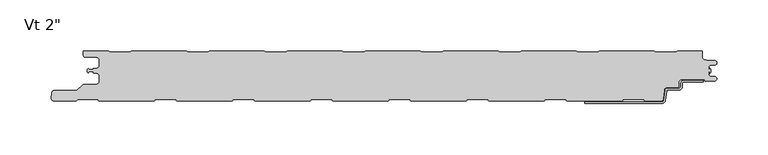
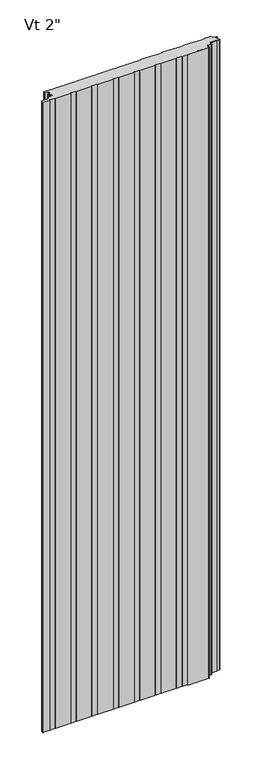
"""IFC4 building model written with IfcOpenShell, lengths in millimetres: plate geometry."""

from ifc_helpers import new_model, si_unit, point, frame, frame_2d, origin, origin_with_axes, place, context, project, spatial, polyline, circle_curve, trimmed, segment, composite_curve, outline, extrude, source, transform, mapped, element, save
from ifc_brep_helpers import plane_surface, cylinder_surface, revolved_surface, advanced_brep


def plate_50353770(model_context):
    return source(origin(), model_context, "Body", "SolidModel", [
        advanced_brep(
        [(278.4543181, -29.7008679, 0.0), (297.1995181, -29.7008679, 0.0), (297.1995181, -31.2248679, 0.0), (278.4543181, -31.2248679, 0.0), (276.9303181, -32.7488679, 0.0), (276.9303181, -35.8476679, 0.0), (273.4759181, -39.3020679, 0.0), (262.2633607, -39.3020679, 0.0), (261.5042604, -39.9976552, 0.0), (260.3094328, -49.5416507, 0.0), (257.2730313, -52.324, 0.0), (181.7057181, -52.3360323, 0.0), (181.7057181, -50.8, 0.0), (257.2730313, -50.8, 0.0), (258.7912321, -49.4088254, 0.0), (259.9860597, -39.8648299, 0.0), (262.2633607, -37.7780679, 0.0), (273.4759181, -37.7780679, 0.0), (275.4063181, -35.8476679, 0.0), (275.4063181, -32.7488679, 0.0), (262.2633607, -39.3020679, 2400.0), (261.5042604, -39.9976552, 2400.0), (276.9303181, -35.8476679, 2400.0), (273.4759181, -39.3020679, 2400.0), (297.1995181, -29.7008679, 2400.0), (297.1995181, -31.2248679, 2400.0), (278.4543181, -31.2248679, 2400.0), (276.9303181, -32.7488679, 2400.0), (260.3094328, -49.5416507, 2400.0), (257.2730313, -52.324, 2400.0), (257.2730313, -50.8, 2400.0), (258.7912321, -49.4088254, 2400.0), (278.4543181, -29.7008679, 2400.0), (259.9860597, -39.8648299, 2400.0), (181.7057181, -50.8, 2400.0), (181.7057181, -52.3360323, 2400.0), (262.2633607, -37.7780679, 2400.0), (273.4759181, -37.7780679, 2400.0), (275.4063181, -35.8476679, 2400.0), (275.4063181, -32.7488679, 2400.0)],
        [
            (0, 1),
            (1, 2),
            (2, 3),
            (3, 4, circle_curve(frame((278.4543181, -32.7488679, 0.0), z_axis=(0.0, 0.0, 1.0), x_axis=(0.0, 1.0, 0.0)), 1.524)),
            (4, 5),
            (5, 6, circle_curve(frame((273.4759181, -35.8476679, 0.0), z_axis=(0.0, 0.0, -1.0), x_axis=(0.0, 1.0, 0.0)), 3.4544)),
            (6, 7),
            (7, 8, circle_curve(frame((262.2633607, -40.0640679, 0.0), z_axis=(0.0, 0.0, 1.0), x_axis=(0.0, 1.0, 0.0)), 0.762)),
            (8, 9),
            (9, 10, circle_curve(frame((257.2730313, -49.276, 0.0), z_axis=(0.0, 0.0, -1.0), x_axis=(0.0, 1.0, 0.0)), 3.048)),
            (10, 11),
            (11, 12),
            (12, 13),
            (13, 14, circle_curve(frame((257.2730313, -49.276, 0.0), z_axis=(0.0, 0.0, 1.0), x_axis=(0.0, 1.0, 0.0)), 1.524)),
            (14, 15),
            (15, 16, circle_curve(frame((262.2633607, -40.0640679, 0.0), z_axis=(0.0, 0.0, -1.0), x_axis=(0.0, 1.0, 0.0)), 2.286)),
            (16, 17),
            (17, 18, circle_curve(frame((273.4759181, -35.8476679, 0.0), z_axis=(0.0, 0.0, 1.0), x_axis=(0.0, 1.0, 0.0)), 1.9304)),
            (18, 19),
            (19, 0, circle_curve(frame((278.4543181, -32.7488679, 0.0), z_axis=(0.0, 0.0, -1.0), x_axis=(0.0, 1.0, 0.0)), 3.048)),
            (7, 20),
            (20, 21, circle_curve(frame((262.2633607, -40.0640679, 2400.0), z_axis=(0.0, 0.0, 1.0), x_axis=(0.0, 1.0, 0.0)), 0.762)),
            (21, 8),
            (5, 22),
            (22, 23, circle_curve(frame((273.4759181, -35.8476679, 2400.0), z_axis=(0.0, 0.0, -1.0), x_axis=(0.0, 1.0, 0.0)), 3.4544)),
            (23, 6),
            (1, 24),
            (24, 25),
            (25, 2),
            (3, 26),
            (26, 27, circle_curve(frame((278.4543181, -32.7488679, 2400.0), z_axis=(0.0, 0.0, 1.0), x_axis=(0.0, 1.0, 0.0)), 1.524)),
            (27, 4),
            (9, 28),
            (28, 29, circle_curve(frame((257.2730313, -49.276, 2400.0), z_axis=(0.0, 0.0, -1.0), x_axis=(0.0, 1.0, 0.0)), 3.048)),
            (29, 10),
            (13, 30),
            (30, 31, circle_curve(frame((257.2730313, -49.276, 2400.0), z_axis=(0.0, 0.0, 1.0), x_axis=(0.0, 1.0, 0.0)), 1.524)),
            (31, 14),
            (0, 32),
            (32, 24),
            (31, 33),
            (33, 15),
            (12, 34),
            (34, 30),
            (21, 28),
            (27, 22),
            (29, 35),
            (35, 11),
            (35, 34),
            (16, 36),
            (36, 37),
            (37, 17),
            (18, 38),
            (38, 39),
            (39, 19),
            (23, 20),
            (37, 38, circle_curve(frame((273.4759181, -35.8476679, 2400.0), z_axis=(0.0, 0.0, 1.0), x_axis=(0.0, 1.0, 0.0)), 1.9304)),
            (39, 32, circle_curve(frame((278.4543181, -32.7488679, 2400.0), z_axis=(0.0, 0.0, -1.0), x_axis=(0.0, 1.0, 0.0)), 3.048)),
            (36, 33, circle_curve(frame((262.2633607, -40.0640679, 2400.0), z_axis=(0.0, 0.0, 1.0), x_axis=(0.0, 1.0, 0.0)), 2.286)),
            (26, 25),
        ],
        [
            plane_surface(frame((297.1995181, -50.8, 0.0), z_axis=(0.0, 0.0, -1.0), x_axis=(-1.0, 0.0, 0.0))),
            revolved_surface(polyline([(262.2633607, -39.3020679, 2400.0), (262.2633607, -39.3020679, 0.0)]), (262.2633607, -40.0640679, 0.0), (0.0, 0.0, 1.0)),
            cylinder_surface(frame((273.4759181, -35.8476679, 0.0), z_axis=(0.0, 0.0, -1.0), x_axis=(0.0, 1.0, 0.0)), 3.4544),
            plane_surface(frame((297.1995181, -31.2248679, 0.0), z_axis=(1.0, 0.0, 0.0), x_axis=(0.0, 0.0, 1.0))),
            revolved_surface(polyline([(278.4543181, -31.2248679, 2400.0), (278.4543181, -31.2248679, 0.0)]), (278.4543181, -32.7488679, 0.0), (0.0, 0.0, 1.0)),
            cylinder_surface(frame((257.2730313, -49.276, 0.0), z_axis=(0.0, 0.0, -1.0), x_axis=(0.0, 1.0, 0.0)), 3.048),
            revolved_surface(polyline([(257.2730313, -47.752, 2400.0), (257.2730313, -47.752, 0.0)]), (257.2730313, -49.276, 0.0), (0.0, 0.0, 1.0)),
            plane_surface(frame((297.1995181, -29.7008679, 0.0), z_axis=(0.0, 1.0, 0.0), x_axis=(0.0, 0.0, 1.0))),
            plane_surface(frame((259.9860597, -39.8648299, 0.0), z_axis=(-0.992254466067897, 0.12422187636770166, 0.0), x_axis=(0.0, 0.0, 1.0))),
            plane_surface(frame((257.2730313, -50.8, 0.0), z_axis=(0.0, 1.0, 0.0), x_axis=(0.0, 0.0, 1.0))),
            plane_surface(frame((260.3094328, -49.5416507, 0.0), z_axis=(0.9922544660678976, -0.12422187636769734, 0.0), x_axis=(0.0, 0.0, 1.0))),
            plane_surface(frame((276.9303181, -35.8476679, 0.0), z_axis=(1.0, 0.0, 0.0), x_axis=(0.0, 0.0, 1.0))),
            plane_surface(frame((181.7057181, -52.3360323, 0.0), z_axis=(0.0, -1.0, 0.0), x_axis=(0.0, 0.0, 1.0))),
            plane_surface(frame((181.7057181, -50.8, 0.0), z_axis=(-1.0, 0.0, 0.0), x_axis=(0.0, 0.0, 1.0))),
            plane_surface(frame((273.4759181, -37.7780679, 0.0), z_axis=(0.0, 1.0, 0.0), x_axis=(0.0, 0.0, 1.0))),
            plane_surface(frame((275.4063181, -32.7488679, 0.0), z_axis=(-1.0, 0.0, 0.0), x_axis=(0.0, 0.0, 1.0))),
            plane_surface(frame((262.2633607, -39.3020679, 0.0), z_axis=(0.0, -1.0, 0.0), x_axis=(0.0, 0.0, 1.0))),
            revolved_surface(polyline([(273.4759181, -33.9172679, 2400.0), (273.4759181, -33.9172679, 0.0)]), (273.4759181, -35.8476679, 0.0), (0.0, 0.0, 1.0)),
            cylinder_surface(frame((278.4543181, -32.7488679, 0.0), z_axis=(0.0, 0.0, -1.0), x_axis=(0.0, 1.0, 0.0)), 3.048),
            plane_surface(frame((297.1995181, -50.8, 2400.0), z_axis=(0.0, 0.0, 1.0), x_axis=(-1.0, 0.0, 0.0))),
            plane_surface(frame((278.4543181, -31.2248679, 0.0), z_axis=(0.0, -1.0, 0.0), x_axis=(0.0, 0.0, 1.0))),
            cylinder_surface(frame((262.2633607, -40.0640679, 0.0), z_axis=(0.0, 0.0, -1.0), x_axis=(0.0, 1.0, 0.0)), 2.286),
        ],
        [
            (0, [[1, 2, 3, 4, 5, 6, 7, 8, 9, 10, 11, 12, 13, 14, 15, 16, 17, 18, 19, 20]]),
            (1, [[21, 22, 23, -8]]),
            (2, [[24, 25, 26, -6]]),
            (3, [[27, 28, 29, -2]]),
            (4, [[30, 31, 32, -4]]),
            (5, [[33, 34, 35, -10]]),
            (6, [[36, 37, 38, -14]]),
            (7, [[39, 40, -27, -1]]),
            (8, [[-38, 41, 42, -15]]),
            (9, [[43, 44, -36, -13]]),
            (10, [[-23, 45, -33, -9]]),
            (11, [[-32, 46, -24, -5]]),
            (12, [[-35, 47, 48, -11]]),
            (13, [[-48, 49, -43, -12]]),
            (14, [[50, 51, 52, -17]]),
            (15, [[53, 54, 55, -19]]),
            (16, [[-26, 56, -21, -7]]),
            (17, [[-52, 57, -53, -18]]),
            (18, [[-55, 58, -39, -20]]),
            (19, [[-58, -54, -57, -51, 59, -41, -37, -44, -49, -47, -34, -45, -22, -56, -25, -46, -31, 60, -28, -40]]),
            (20, [[-29, -60, -30, -3]]),
            (21, [[-42, -59, -50, -16]]),
        ],
    ),
        extrude(outline(composite_curve([segment(polyline([(-303.7683001, -22.4760161), (-304.8, -21.4443162), (-304.8, -19.0391752), (-303.7686883, -18.0078635)]), True, "CONTINUOUS"), segment(trimmed(circle_curve(frame_2d((-302.7686911, -18.0078576)), 0.9999972), [point((-303.7686883, -18.0078635))], [point((-302.7686911, -19.0078547))], True, "CARTESIAN"), True, "CONTINUOUS"), segment(polyline([(-302.7686911, -19.0078547), (-298.7684875, -19.0078547), (-298.7684875, -18.0078602), (-296.0762777, -18.0078602)]), True, "CONTINUOUS"), segment(trimmed(circle_curve(frame_2d((-296.0762777, -14.7078645)), 3.2999957), [point((-296.0762777, -18.0078602))], [point((-292.776282, -14.7078645))], True, "CARTESIAN"), True, "CONTINUOUS"), segment(polyline([(-292.776282, -14.7078645), (-292.776282, -10.3078733)]), True, "CONTINUOUS"), segment(trimmed(circle_curve(frame_2d((-296.0762778, -10.3078733)), 3.2999959), [point((-292.776282, -10.3078733))], [point((-296.0762778, -7.0078774))], True, "CARTESIAN"), True, "CONTINUOUS"), segment(polyline([(-296.0762778, -7.0078774), (-306.4962564, -7.0078774)]), True, "CONTINUOUS"), segment(trimmed(circle_curve(frame_2d((-306.4962564, -5.2378832)), 1.7699942), [point((-306.4962564, -7.0078774))], [point((-308.2662506, -5.2378832))], False, "CARTESIAN"), True, "CONTINUOUS"), segment(polyline([(-308.2662506, -5.2378832), (-308.2662506, -1.0063359), (-283.765974, -1.0063359), (-282.3803313, -2.206575), (-263.005165, -2.206575), (-261.6195321, -1.0063443), (-207.5661167, -1.0063443), (-206.1804837, -2.206575), (-186.8053174, -2.206575), (-185.4196845, -1.0063443), (-131.3662691, -1.0063443), (-129.9806361, -2.206575), (-110.6054698, -2.206575), (-109.2198369, -1.0063443), (-55.1664215, -1.0063443), (-53.7807885, -2.206575), (-34.4056222, -2.206575), (-33.0199893, -1.0063443), (21.0334261, -1.0063443), (22.4190591, -2.206575), (41.7942254, -2.206575), (43.1798583, -1.0063443), (97.2332737, -1.0063443), (98.6189067, -2.206575), (117.994073, -2.206575), (119.3797059, -1.0063443), (173.4331213, -1.0063443), (174.8187543, -2.206575), (194.1939206, -2.206575), (195.5795535, -1.0063443), (249.6329689, -1.0063443), (251.0186019, -2.206575), (270.3937682, -2.206575), (271.7794011, -1.0063443), (296.2787013, -1.0063443), (296.2787013, -6.008945)]), True, "CONTINUOUS"), segment(trimmed(circle_curve(frame_2d((300.2939817, -5.9930781)), 4.0153117), [point((296.2787013, -6.008945))], [point((300.1016499, -10.0037808))], True, "CARTESIAN"), True, "CONTINUOUS"), segment(polyline([(300.1016499, -10.0037808), (308.5931719, -10.4109885)]), True, "CONTINUOUS"), segment(trimmed(circle_curve(frame_2d((308.4781032, -12.5616314)), 2.153719), [point((308.5931719, -10.4109885))], [point((308.5921924, -14.7123265))], False, "CARTESIAN"), True, "CONTINUOUS"), segment(polyline([(308.5921924, -14.7123265), (304.4513685, -14.9319872)]), True, "CONTINUOUS"), segment(trimmed(circle_curve(frame_2d((304.5186869, -16.6806905)), 1.7499985), [point((304.4513685, -14.9319872))], [point((302.7686884, -16.6806905))], True, "CARTESIAN"), True, "CONTINUOUS"), segment(polyline([(302.7686884, -16.6806905), (302.7686884, -19.0078731), (303.7686884, -19.0078731), (303.7686884, -17.5934852), (304.8, -18.6247968), (304.8, -21.8586945), (303.7686884, -22.8900061), (303.7686884, -21.3025061), (302.7686884, -21.3025061), (302.7686884, -24.0870527)]), True, "CONTINUOUS"), segment(trimmed(circle_curve(frame_2d((304.6099653, -24.0434917)), 1.8417922), [point((302.7686884, -24.0870527))], [point((304.4977997, -25.8818653))], True, "CARTESIAN"), True, "CONTINUOUS"), segment(polyline([(304.4977997, -25.8818653), (308.5037148, -26.1262802)]), True, "CONTINUOUS"), segment(trimmed(circle_curve(frame_2d((308.4236622, -28.2266291)), 2.1018739), [point((308.5037148, -26.1262802))], [point((308.506811, -30.3268578))], False, "CARTESIAN"), True, "CONTINUOUS"), segment(polyline([(308.506811, -30.3268578), (299.5334028, -30.6821181), (298.3895515, -28.7012703), (277.2091924, -28.7012703)]), True, "CONTINUOUS"), segment(trimmed(circle_curve(frame_2d((277.2091924, -32.7007233)), 3.9994529), [point((277.2091924, -28.7012703))], [point((273.2097394, -32.7007233))], True, "CARTESIAN"), True, "CONTINUOUS"), segment(polyline([(273.2097394, -32.7007233), (273.2097394, -35.8443786)]), True, "CONTINUOUS"), segment(trimmed(circle_curve(frame_2d((272.2583308, -35.8443786)), 0.9514087), [point((273.2097394, -35.8443786))], [point((272.2583308, -36.7957873))], False, "CARTESIAN"), True, "CONTINUOUS"), segment(polyline([(272.2583308, -36.7957873), (262.1653654, -36.7957873)]), True, "CONTINUOUS"), segment(trimmed(circle_curve(frame_2d((262.0396267, -39.8231732)), 3.0299959), [point((262.1653654, -36.7957873))], [point((259.021161, -39.5590902))], True, "CARTESIAN"), True, "CONTINUOUS"), segment(polyline([(259.021161, -39.5590902), (258.2671075, -48.0178029)]), True, "CONTINUOUS"), segment(trimmed(circle_curve(frame_2d((256.3156233, -47.8461194)), 1.9590216), [point((258.2671075, -48.0178029))], [point((256.3156233, -49.8051411))], False, "CARTESIAN"), True, "CONTINUOUS"), segment(polyline([(256.3156233, -49.8051411), (240.2456965, -49.8051411), (239.0403247, -48.5997693), (219.3209122, -48.5997693), (218.1206815, -49.8), (164.0405497, -49.8), (162.840319, -48.5997693), (143.1209065, -48.5997693), (141.9206758, -49.8), (87.840544, -49.8), (86.6403133, -48.5997693), (66.9209008, -48.5997693), (65.7206701, -49.8), (11.6405383, -49.8), (10.4403076, -48.5997693), (-9.2791049, -48.5997693), (-10.4793356, -49.8), (-64.5594674, -49.8), (-65.7596981, -48.5997693), (-85.4791106, -48.5997693), (-86.6793413, -49.8), (-140.7594731, -49.8), (-141.9597038, -48.5997693), (-161.6791163, -48.5997693), (-162.879347, -49.8), (-216.9594787, -49.8), (-218.1597095, -48.5997693), (-237.879122, -48.5997693), (-239.0793527, -49.8), (-293.1594844, -49.8), (-294.3597151, -48.5997693), (-314.0791277, -48.5997693), (-315.2790962, -49.7997378), (-337.2521176, -49.7997378)]), True, "CONTINUOUS"), segment(trimmed(circle_curve(frame_2d((-337.2521176, -47.2294985)), 2.5702393), [point((-337.2521176, -49.7997378))], [point((-339.8125699, -47.0054129))], False, "CARTESIAN"), True, "CONTINUOUS"), segment(polyline([(-339.8125699, -47.0054129), (-339.3765709, -42.023592)]), True, "CONTINUOUS"), segment(trimmed(circle_curve(frame_2d((-336.7198392, -42.5049826)), 2.6999926), [point((-339.3765709, -42.023592))], [point((-336.7198392, -39.80499))], False, "CARTESIAN"), True, "CONTINUOUS"), segment(polyline([(-336.7198392, -39.80499), (-314.6247096, -39.80499), (-309.1226385, -34.3029189)]), True, "CONTINUOUS"), segment(trimmed(circle_curve(frame_2d((-307.9205608, -35.5049966)), 1.6999946), [point((-309.1226385, -34.3029189))], [point((-307.9205608, -33.805002))], False, "CARTESIAN"), True, "CONTINUOUS"), segment(polyline([(-307.9205608, -33.805002), (-296.1096717, -33.805002)]), True, "CONTINUOUS"), segment(trimmed(circle_curve(frame_2d((-296.1096717, -30.4550067)), 3.3499953), [point((-296.1096717, -33.805002))], [point((-292.7596764, -30.4550067))], True, "CARTESIAN"), True, "CONTINUOUS"), segment(polyline([(-292.7596764, -30.4550067), (-292.7596764, -26.0550155)]), True, "CONTINUOUS"), segment(trimmed(circle_curve(frame_2d((-296.1096717, -26.0550155)), 3.3499953), [point((-292.7596764, -26.0550155))], [point((-296.1096717, -22.7050202))], True, "CARTESIAN"), True, "CONTINUOUS"), segment(polyline([(-296.1096717, -22.7050202), (-298.8087827, -22.7050202), (-298.8087827, -21.3065413), (-302.5671761, -21.3065413)]), True, "CONTINUOUS"), segment(trimmed(circle_curve(frame_2d((-302.5686908, -22.506538)), 1.1999976), [point((-302.5671761, -21.3065413))], [point((-303.7683001, -22.4760161))], True, "CARTESIAN"), True, "CONTINUOUS")], self_intersect=False)), origin_with_axes(), (0.0, 0.0, 1.0), 2400.0),
    ])


if __name__ == "__main__":
    model = new_model("IFC4")
    model_context = context("Model", 3, world=origin())
    ifc_project = project(units=[si_unit("LENGTHUNIT", "METRE", prefix="MILLI")], contexts=[model_context])
    site = spatial("IfcSite", under=ifc_project)
    building = spatial("IfcBuilding", under=site)
    placement = place(None, origin())
    plate_shape = plate_50353770(model_context)
    element("IfcPlate", 1, ObjectType="KIP-24-Karrier-KP-R19-CP-Vt-SL3-8in_SL : Vt 2\"", at=placement, inside=building, context=model_context, shape_type="MappedRepresentation", body=[
        mapped(plate_shape, transform((0.0, 0.0, 0.0), x_axis=(1.0, 0.0, 0.0), y_axis=(0.0, 1.0, 0.0), z_axis=(0.0, 0.0, 1.0))),
    ])
    save(model, "model.ifc")
